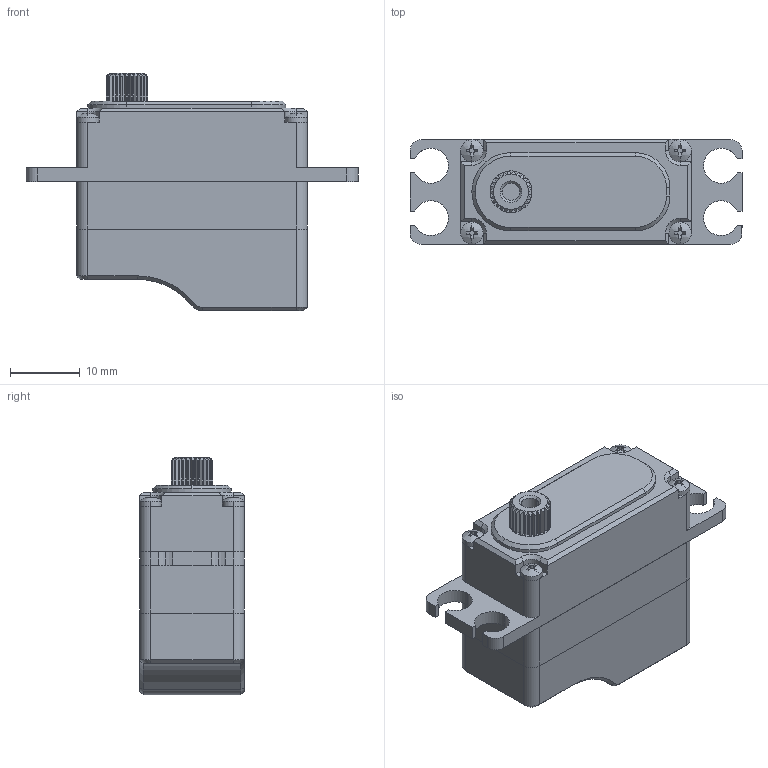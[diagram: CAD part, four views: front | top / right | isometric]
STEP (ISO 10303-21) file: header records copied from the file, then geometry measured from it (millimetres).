
FILE_DESCRIPTION (( 'STEP AP214' ), '1' );
FILE_NAME ('SV15-12_DM_20250423.STEP', '2025-04-24T03:21:45', ( '' ), ( '' ), 'SwSTEP 2.0', 'SolidWorks 2016', '' );
FILE_SCHEMA (( 'AUTOMOTIVE_DESIGN' ));
Length unit declared in the file: millimetre
Products named in the file (1): SV15-12_DM_20250423
Bounding box: 47.5 x 15 x 34 mm (x, y, z)
Surface area: 4969.9 mm2 (no closed solid volume)
Topology: 0 solids, 10 shells, 322 faces, 966 edges, 652 vertices
Faces by surface type: plane 178, cylinder 116, cone 20, bspline 8
Entity records: 14650 total; most frequent: CARTESIAN_POINT 2531, ORIENTED_EDGE 1782, DIRECTION 1756, EDGE_CURVE 966, VERTEX_POINT 652, AXIS2_PLACEMENT_3D 621, LINE 514, VECTOR 514
